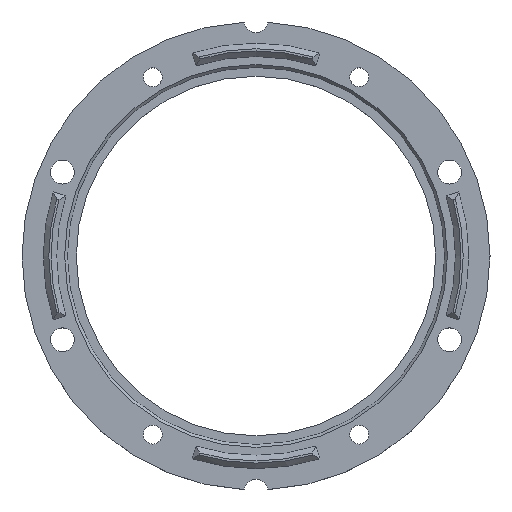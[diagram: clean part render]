
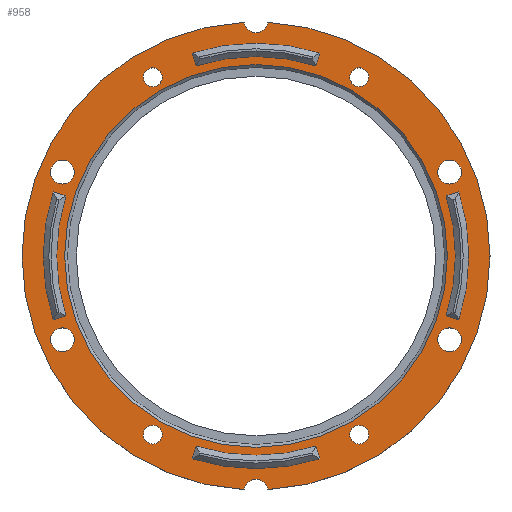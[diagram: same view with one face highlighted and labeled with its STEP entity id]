
A CAD part, top view. The second image highlights one B-rep face of the part: STEP entity #958.
In plain terms, the highlighted planar face has unit normal (0, 0, 1).
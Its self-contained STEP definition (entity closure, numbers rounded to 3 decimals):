
#126=VECTOR('',#1390,1.);
#128=VECTOR('',#1400,1.);
#130=VECTOR('',#1409,1.);
#132=VECTOR('',#1419,1.);
#134=VECTOR('',#1428,1.);
#136=VECTOR('',#1438,1.);
#138=VECTOR('',#1447,1.);
#140=VECTOR('',#1457,1.);
#146=LINE('',#1121,#126);
#148=LINE('',#1133,#128);
#150=LINE('',#1154,#130);
#152=LINE('',#1166,#132);
#154=LINE('',#1187,#134);
#156=LINE('',#1199,#136);
#158=LINE('',#1220,#138);
#160=LINE('',#1232,#140);
#186=PLANE('',#1074);
#188=CIRCLE('',#974,38.45);
#191=CIRCLE('',#980,36.05);
#192=CIRCLE('',#983,38.45);
#195=CIRCLE('',#989,36.05);
#196=CIRCLE('',#992,38.45);
#199=CIRCLE('',#998,36.05);
#200=CIRCLE('',#1001,38.45);
#203=CIRCLE('',#1007,36.05);
#240=CIRCLE('',#1071,1.7);
#241=CIRCLE('',#1073,1.7);
#242=CIRCLE('',#1075,1.7);
#243=CIRCLE('',#1076,1.7);
#244=CIRCLE('',#1077,2.15);
#245=CIRCLE('',#1078,42.3);
#246=CIRCLE('',#1079,2.15);
#247=CIRCLE('',#1080,2.15);
#248=CIRCLE('',#1081,2.15);
#249=CIRCLE('',#1082,2.15);
#250=CIRCLE('',#1083,2.15);
#251=CIRCLE('',#1084,34.6);
#256=VERTEX_POINT('',#1106);
#257=VERTEX_POINT('',#1108);
#260=VERTEX_POINT('',#1120);
#262=VERTEX_POINT('',#1130);
#264=VERTEX_POINT('',#1139);
#265=VERTEX_POINT('',#1141);
#268=VERTEX_POINT('',#1153);
#270=VERTEX_POINT('',#1163);
#272=VERTEX_POINT('',#1172);
#273=VERTEX_POINT('',#1174);
#276=VERTEX_POINT('',#1186);
#278=VERTEX_POINT('',#1196);
#280=VERTEX_POINT('',#1205);
#281=VERTEX_POINT('',#1207);
#284=VERTEX_POINT('',#1219);
#286=VERTEX_POINT('',#1229);
#324=VERTEX_POINT('',#1333);
#325=VERTEX_POINT('',#1336);
#326=VERTEX_POINT('',#1339);
#327=VERTEX_POINT('',#1341);
#328=VERTEX_POINT('',#1343);
#329=VERTEX_POINT('',#1344);
#330=VERTEX_POINT('',#1346);
#331=VERTEX_POINT('',#1348);
#332=VERTEX_POINT('',#1350);
#333=VERTEX_POINT('',#1352);
#334=VERTEX_POINT('',#1354);
#335=VERTEX_POINT('',#1356);
#336=VERTEX_POINT('',#1358);
#357=EDGE_CURVE('',#257,#256,#188,.T.);
#362=EDGE_CURVE('',#256,#260,#146,.T.);
#366=EDGE_CURVE('',#260,#262,#191,.T.);
#367=EDGE_CURVE('',#262,#257,#148,.T.);
#369=EDGE_CURVE('',#265,#264,#192,.T.);
#374=EDGE_CURVE('',#264,#268,#150,.T.);
#378=EDGE_CURVE('',#268,#270,#195,.T.);
#379=EDGE_CURVE('',#270,#265,#152,.T.);
#381=EDGE_CURVE('',#273,#272,#196,.T.);
#386=EDGE_CURVE('',#272,#276,#154,.T.);
#390=EDGE_CURVE('',#276,#278,#199,.T.);
#391=EDGE_CURVE('',#278,#273,#156,.T.);
#393=EDGE_CURVE('',#281,#280,#200,.T.);
#398=EDGE_CURVE('',#280,#284,#158,.T.);
#402=EDGE_CURVE('',#284,#286,#203,.T.);
#403=EDGE_CURVE('',#286,#281,#160,.T.);
#441=EDGE_CURVE('',#324,#324,#240,.T.);
#442=EDGE_CURVE('',#325,#325,#241,.T.);
#443=EDGE_CURVE('',#326,#326,#242,.T.);
#444=EDGE_CURVE('',#327,#327,#243,.T.);
#445=EDGE_CURVE('',#328,#329,#244,.T.);
#446=EDGE_CURVE('',#330,#329,#245,.T.);
#447=EDGE_CURVE('',#330,#331,#246,.T.);
#448=EDGE_CURVE('',#328,#331,#245,.T.);
#449=EDGE_CURVE('',#332,#332,#247,.T.);
#450=EDGE_CURVE('',#333,#333,#248,.T.);
#451=EDGE_CURVE('',#334,#334,#249,.T.);
#452=EDGE_CURVE('',#335,#335,#250,.T.);
#453=EDGE_CURVE('',#336,#336,#251,.T.);
#606=ORIENTED_EDGE('',*,*,#357,.T.);
#607=ORIENTED_EDGE('',*,*,#362,.T.);
#608=ORIENTED_EDGE('',*,*,#366,.T.);
#609=ORIENTED_EDGE('',*,*,#367,.T.);
#610=ORIENTED_EDGE('',*,*,#369,.T.);
#611=ORIENTED_EDGE('',*,*,#374,.T.);
#612=ORIENTED_EDGE('',*,*,#378,.T.);
#613=ORIENTED_EDGE('',*,*,#379,.T.);
#614=ORIENTED_EDGE('',*,*,#381,.T.);
#615=ORIENTED_EDGE('',*,*,#386,.T.);
#616=ORIENTED_EDGE('',*,*,#390,.T.);
#617=ORIENTED_EDGE('',*,*,#391,.T.);
#618=ORIENTED_EDGE('',*,*,#393,.T.);
#619=ORIENTED_EDGE('',*,*,#398,.T.);
#620=ORIENTED_EDGE('',*,*,#402,.T.);
#621=ORIENTED_EDGE('',*,*,#403,.T.);
#622=ORIENTED_EDGE('',*,*,#443,.T.);
#623=ORIENTED_EDGE('',*,*,#444,.T.);
#624=ORIENTED_EDGE('',*,*,#445,.T.);
#625=ORIENTED_EDGE('',*,*,#446,.F.);
#626=ORIENTED_EDGE('',*,*,#447,.T.);
#627=ORIENTED_EDGE('',*,*,#448,.F.);
#628=ORIENTED_EDGE('',*,*,#449,.T.);
#629=ORIENTED_EDGE('',*,*,#450,.T.);
#630=ORIENTED_EDGE('',*,*,#451,.T.);
#631=ORIENTED_EDGE('',*,*,#452,.T.);
#632=ORIENTED_EDGE('',*,*,#453,.F.);
#633=ORIENTED_EDGE('',*,*,#442,.T.);
#634=ORIENTED_EDGE('',*,*,#441,.T.);
#753=EDGE_LOOP('',(#606,#607,#608,#609));
#754=EDGE_LOOP('',(#610,#611,#612,#613));
#755=EDGE_LOOP('',(#614,#615,#616,#617));
#756=EDGE_LOOP('',(#618,#619,#620,#621));
#757=EDGE_LOOP('',(#622));
#758=EDGE_LOOP('',(#623));
#759=EDGE_LOOP('',(#624,#625,#626,#627));
#760=EDGE_LOOP('',(#628));
#761=EDGE_LOOP('',(#629));
#762=EDGE_LOOP('',(#630));
#763=EDGE_LOOP('',(#631));
#764=EDGE_LOOP('',(#632));
#765=EDGE_LOOP('',(#633));
#766=EDGE_LOOP('',(#634));
#873=FACE_BOUND('',#753,.T.);
#874=FACE_BOUND('',#754,.T.);
#875=FACE_BOUND('',#755,.T.);
#876=FACE_BOUND('',#756,.T.);
#877=FACE_BOUND('',#757,.T.);
#878=FACE_BOUND('',#758,.T.);
#879=FACE_BOUND('',#759,.T.);
#880=FACE_BOUND('',#760,.T.);
#881=FACE_BOUND('',#761,.T.);
#882=FACE_BOUND('',#762,.T.);
#883=FACE_BOUND('',#763,.T.);
#884=FACE_BOUND('',#764,.T.);
#885=FACE_BOUND('',#765,.T.);
#886=FACE_BOUND('',#766,.T.);
#958=ADVANCED_FACE('',(#873,#874,#875,#876,#877,#878,#879,#880,#881,#882,
#883,#884,#885,#886),#186,.T.);
#974=AXIS2_PLACEMENT_3D('',#1107,#1384,#1385);
#980=AXIS2_PLACEMENT_3D('',#1131,#1397,#1398);
#983=AXIS2_PLACEMENT_3D('',#1140,#1403,#1404);
#989=AXIS2_PLACEMENT_3D('',#1164,#1416,#1417);
#992=AXIS2_PLACEMENT_3D('',#1173,#1422,#1423);
#998=AXIS2_PLACEMENT_3D('',#1197,#1435,#1436);
#1001=AXIS2_PLACEMENT_3D('',#1206,#1441,#1442);
#1007=AXIS2_PLACEMENT_3D('',#1230,#1454,#1455);
#1071=AXIS2_PLACEMENT_3D('',#1332,#1573,#1574);
#1073=AXIS2_PLACEMENT_3D('',#1335,#1577,#1578);
#1074=AXIS2_PLACEMENT_3D('',#1337,#1579,$);
#1075=AXIS2_PLACEMENT_3D('',#1338,#1580,#1581);
#1076=AXIS2_PLACEMENT_3D('',#1340,#1582,#1583);
#1077=AXIS2_PLACEMENT_3D('',#1342,#1584,#1585);
#1078=AXIS2_PLACEMENT_3D('',#1345,#1586,#1587);
#1079=AXIS2_PLACEMENT_3D('',#1347,#1588,#1589);
#1080=AXIS2_PLACEMENT_3D('',#1349,#1590,#1591);
#1081=AXIS2_PLACEMENT_3D('',#1351,#1592,#1593);
#1082=AXIS2_PLACEMENT_3D('',#1353,#1594,#1595);
#1083=AXIS2_PLACEMENT_3D('',#1355,#1596,#1597);
#1084=AXIS2_PLACEMENT_3D('',#1357,#1598,#1599);
#1106=CARTESIAN_POINT('',(36.67,-11.562,9.));
#1107=CARTESIAN_POINT('',(0.,0.,9.));
#1108=CARTESIAN_POINT('',(36.67,11.562,9.));
#1120=CARTESIAN_POINT('',(34.381,-10.84,9.));
#1121=CARTESIAN_POINT('',(17.763,-5.601,9.));
#1130=CARTESIAN_POINT('',(34.381,10.84,9.));
#1131=CARTESIAN_POINT('',(0.,0.,9.));
#1133=CARTESIAN_POINT('',(17.763,5.601,9.));
#1139=CARTESIAN_POINT('',(-11.562,-36.67,9.));
#1140=CARTESIAN_POINT('',(0.,0.,9.));
#1141=CARTESIAN_POINT('',(11.562,-36.67,9.));
#1153=CARTESIAN_POINT('',(-10.84,-34.381,9.));
#1154=CARTESIAN_POINT('',(-5.601,-17.763,9.));
#1163=CARTESIAN_POINT('',(10.84,-34.381,9.));
#1164=CARTESIAN_POINT('',(0.,0.,9.));
#1166=CARTESIAN_POINT('',(5.601,-17.763,9.));
#1172=CARTESIAN_POINT('',(-36.67,11.562,9.));
#1173=CARTESIAN_POINT('',(0.,0.,9.));
#1174=CARTESIAN_POINT('',(-36.67,-11.562,9.));
#1186=CARTESIAN_POINT('',(-34.381,10.84,9.));
#1187=CARTESIAN_POINT('',(-17.763,5.601,9.));
#1196=CARTESIAN_POINT('',(-34.381,-10.84,9.));
#1197=CARTESIAN_POINT('',(0.,0.,9.));
#1199=CARTESIAN_POINT('',(-17.763,-5.601,9.));
#1205=CARTESIAN_POINT('',(11.562,36.67,9.));
#1206=CARTESIAN_POINT('',(0.,0.,9.));
#1207=CARTESIAN_POINT('',(-11.562,36.67,9.));
#1219=CARTESIAN_POINT('',(10.84,34.381,9.));
#1220=CARTESIAN_POINT('',(5.601,17.763,9.));
#1229=CARTESIAN_POINT('',(-10.84,34.381,9.));
#1230=CARTESIAN_POINT('',(0.,0.,9.));
#1232=CARTESIAN_POINT('',(-5.601,17.763,9.));
#1332=CARTESIAN_POINT('',(18.65,-32.303,9.));
#1333=CARTESIAN_POINT('',(16.95,-32.303,9.));
#1335=CARTESIAN_POINT('',(-18.65,-32.303,9.));
#1336=CARTESIAN_POINT('',(-20.35,-32.303,9.));
#1337=CARTESIAN_POINT('',(0.,0.,9.));
#1338=CARTESIAN_POINT('',(18.65,32.303,9.));
#1339=CARTESIAN_POINT('',(16.95,32.303,9.));
#1340=CARTESIAN_POINT('',(-18.65,32.303,9.));
#1341=CARTESIAN_POINT('',(-20.35,32.303,9.));
#1342=CARTESIAN_POINT('',(0.,-42.5,9.));
#1343=CARTESIAN_POINT('',(-2.135,-42.246,9.));
#1344=CARTESIAN_POINT('',(2.135,-42.246,9.));
#1345=CARTESIAN_POINT('',(0.,0.,9.));
#1346=CARTESIAN_POINT('',(2.135,42.246,9.));
#1347=CARTESIAN_POINT('',(0.,42.5,9.));
#1348=CARTESIAN_POINT('',(-2.135,42.246,9.));
#1349=CARTESIAN_POINT('',(35.,15.155,9.));
#1350=CARTESIAN_POINT('',(32.85,15.155,9.));
#1351=CARTESIAN_POINT('',(35.,-15.155,9.));
#1352=CARTESIAN_POINT('',(32.85,-15.155,9.));
#1353=CARTESIAN_POINT('',(-35.,15.155,9.));
#1354=CARTESIAN_POINT('',(-32.85,15.155,9.));
#1355=CARTESIAN_POINT('',(-35.,-15.155,9.));
#1356=CARTESIAN_POINT('',(-32.85,-15.155,9.));
#1357=CARTESIAN_POINT('',(0.,0.,9.));
#1358=CARTESIAN_POINT('',(34.6,0.,9.));
#1384=DIRECTION('',(0.,0.,-1.));
#1385=DIRECTION('',(0.,-38.45,0.));
#1390=DIRECTION('',(-0.954,0.301,0.));
#1397=DIRECTION('',(0.,0.,1.));
#1398=DIRECTION('',(0.,-36.05,0.));
#1400=DIRECTION('',(0.954,0.301,0.));
#1403=DIRECTION('',(0.,0.,-1.));
#1404=DIRECTION('',(-38.45,0.,0.));
#1409=DIRECTION('',(0.301,0.954,0.));
#1416=DIRECTION('',(0.,0.,1.));
#1417=DIRECTION('',(-36.05,0.,0.));
#1419=DIRECTION('',(0.301,-0.954,0.));
#1422=DIRECTION('',(0.,0.,-1.));
#1423=DIRECTION('',(0.,38.45,0.));
#1428=DIRECTION('',(0.954,-0.301,0.));
#1435=DIRECTION('',(0.,0.,1.));
#1436=DIRECTION('',(0.,36.05,0.));
#1438=DIRECTION('',(-0.954,-0.301,0.));
#1441=DIRECTION('',(0.,0.,-1.));
#1442=DIRECTION('',(38.45,0.,0.));
#1447=DIRECTION('',(-0.301,-0.954,0.));
#1454=DIRECTION('',(0.,0.,1.));
#1455=DIRECTION('',(36.05,0.,0.));
#1457=DIRECTION('',(-0.301,0.954,0.));
#1573=DIRECTION('',(0.,0.,-1.));
#1574=DIRECTION('',(1.7,0.,0.));
#1577=DIRECTION('',(0.,0.,-1.));
#1578=DIRECTION('',(1.7,0.,0.));
#1579=DIRECTION('',(0.,0.,1.));
#1580=DIRECTION('',(0.,0.,-1.));
#1581=DIRECTION('',(1.7,0.,0.));
#1582=DIRECTION('',(0.,0.,-1.));
#1583=DIRECTION('',(1.7,0.,0.));
#1584=DIRECTION('',(0.,0.,-1.));
#1585=DIRECTION('',(-2.15,0.,0.));
#1586=DIRECTION('',(0.,0.,-1.));
#1587=DIRECTION('',(42.3,0.,0.));
#1588=DIRECTION('',(0.,0.,-1.));
#1589=DIRECTION('',(2.15,0.,0.));
#1590=DIRECTION('',(0.,0.,-1.));
#1591=DIRECTION('',(2.15,0.,0.));
#1592=DIRECTION('',(0.,0.,-1.));
#1593=DIRECTION('',(2.15,0.,0.));
#1594=DIRECTION('',(0.,0.,-1.));
#1595=DIRECTION('',(-2.15,0.,0.));
#1596=DIRECTION('',(0.,0.,-1.));
#1597=DIRECTION('',(-2.15,0.,0.));
#1598=DIRECTION('',(0.,0.,1.));
#1599=DIRECTION('',(-34.6,0.,0.));
